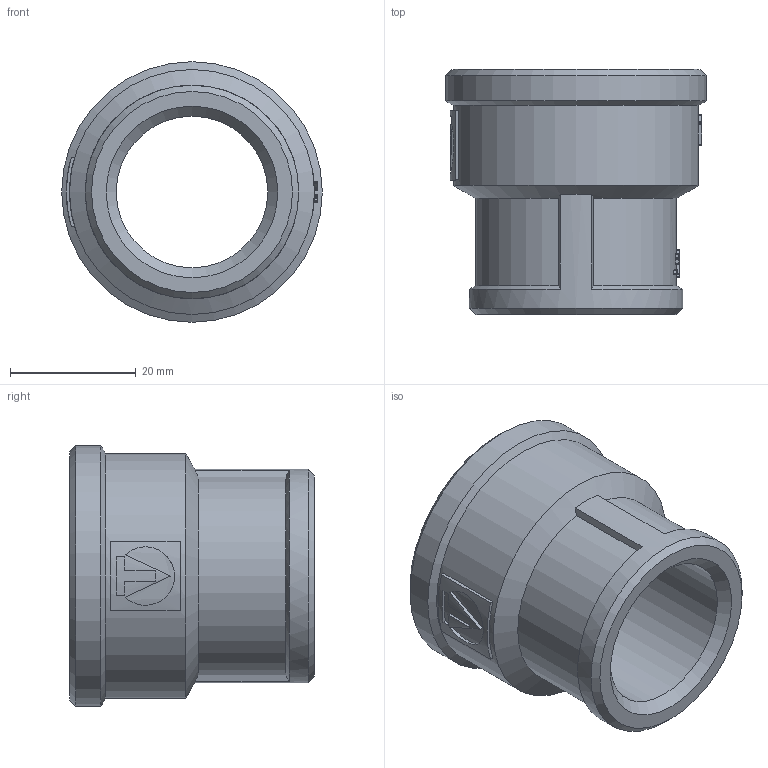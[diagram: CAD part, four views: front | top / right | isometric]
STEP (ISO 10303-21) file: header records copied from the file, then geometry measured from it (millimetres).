
FILE_DESCRIPTION(('STEP AP203'), '1');
FILE_NAME('ÂÐ.714361.005 - VTr.240.N.0605 Ìóôòà G1õG3-4', '2024-06-27T08:10:47', ('Boss'), (''), 'C3D Converter', 'C3D Toolkit', '');
FILE_SCHEMA(('CONFIG_CONTROL_DESIGN'));
Length unit declared in the file: millimetre
Products named in the file (1): ВР.714361.005
Bounding box: 41.5 x 39 x 41.5 mm (x, y, z)
Volume: 17314.6 mm3; surface area: 9173 mm2
Topology: 1 solids, 1 shells, 191 faces, 529 edges, 350 vertices
Faces by surface type: extrusion 96, plane 67, cylinder 19, cone 9
Full cylindrical faces by diameter (mm): 24.118 x1, 30.292 x1, 34 x1, 39 x1, 41.5 x1
Entity records: 8130 total; most frequent: CARTESIAN_POINT 3787, ORIENTED_EDGE 1032, DIRECTION 598, EDGE_CURVE 516, VERTEX_POINT 350, B_SPLINE_CURVE_WITH_KNOTS 298, VECTOR 294, EDGE_LOOP 216
